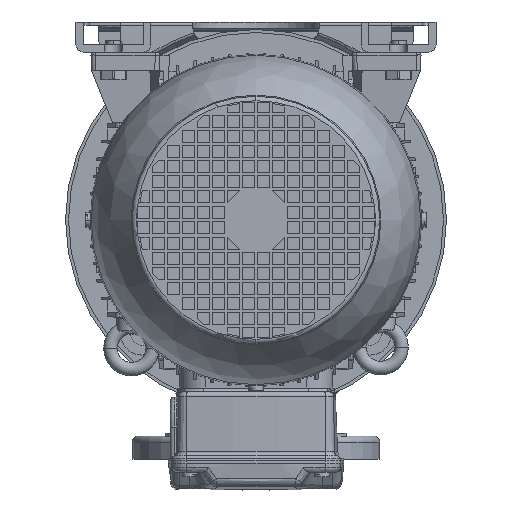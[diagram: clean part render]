
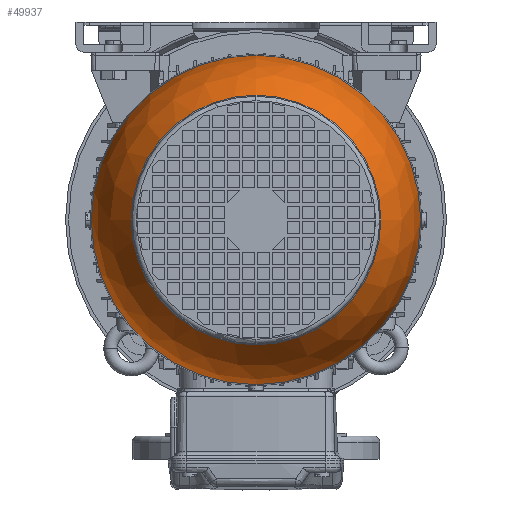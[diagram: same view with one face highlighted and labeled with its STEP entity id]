
A CAD part, front view. The second image highlights one B-rep face of the part: STEP entity #49937.
In plain terms, the highlighted spherical face has radius 109.795 mm.
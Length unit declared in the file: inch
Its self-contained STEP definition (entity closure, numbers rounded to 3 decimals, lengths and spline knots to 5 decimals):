
#7309 = FACE_BOUND ( 'NONE', #15294, .T. ) ;
#14268 = CIRCLE ( 'NONE', #165744, 3.27661 ) ;
#14959 = CARTESIAN_POINT ( 'NONE',  ( -4.70174, 4.32114, 0. ) ) ;
#15294 = EDGE_LOOP ( 'NONE', ( #162557, #49682 ) ) ;
#20419 = CIRCLE ( 'NONE', #151854, 3.27661 ) ;
#22090 = EDGE_CURVE ( 'NONE', #39166, #123479, #124474, .T. ) ;
#23383 = SPHERICAL_SURFACE ( 'NONE', #53732, 4.32262 ) ;
#30882 = DIRECTION ( 'NONE',  ( -1., 0., 0. ) ) ;
#35862 = AXIS2_PLACEMENT_3D ( 'NONE', #56839, #30882, #99760 ) ;
#39166 = VERTEX_POINT ( 'NONE', #14959 ) ;
#41629 = VERTEX_POINT ( 'NONE', #88318 ) ;
#49682 = ORIENTED_EDGE ( 'NONE', *, *, #94204, .F. ) ;
#49937 = ADVANCED_FACE ( 'NONE', ( #7309, #156748 ), #23383, .T. ) ;
#50486 = CARTESIAN_POINT ( 'NONE',  ( -4.70174, -4.32114, 0. ) ) ;
#53732 = AXIS2_PLACEMENT_3D ( 'NONE', #145948, #60107, #103920 ) ;
#56219 = AXIS2_PLACEMENT_3D ( 'NONE', #86235, #137256, #97888 ) ;
#56839 = CARTESIAN_POINT ( 'NONE',  ( -4.70174, 0., 0. ) ) ;
#60107 = DIRECTION ( 'NONE',  ( 1., 0., 0. ) ) ;
#74088 = VERTEX_POINT ( 'NONE', #82377 ) ;
#78595 = DIRECTION ( 'NONE',  ( -1., 0., 0. ) ) ;
#82377 = CARTESIAN_POINT ( 'NONE',  ( -7.40796, 3.27661, 0. ) ) ;
#86235 = CARTESIAN_POINT ( 'NONE',  ( -4.70174, 0., 0. ) ) ;
#87380 = ORIENTED_EDGE ( 'NONE', *, *, #22090, .T. ) ;
#88318 = CARTESIAN_POINT ( 'NONE',  ( -7.40796, -3.27661, 0. ) ) ;
#94204 = EDGE_CURVE ( 'NONE', #74088, #41629, #14268, .T. ) ;
#97888 = DIRECTION ( 'NONE',  ( 0., -1., 0. ) ) ;
#99760 = DIRECTION ( 'NONE',  ( 0., -1., 0. ) ) ;
#103313 = DIRECTION ( 'NONE',  ( -1., 0., 0. ) ) ;
#103920 = DIRECTION ( 'NONE',  ( 0., -1., 0. ) ) ;
#104044 = ORIENTED_EDGE ( 'NONE', *, *, #123695, .T. ) ;
#106653 = EDGE_LOOP ( 'NONE', ( #87380, #104044 ) ) ;
#123479 = VERTEX_POINT ( 'NONE', #50486 ) ;
#123695 = EDGE_CURVE ( 'NONE', #123479, #39166, #176167, .T. ) ;
#124474 = CIRCLE ( 'NONE', #35862, 4.32114 ) ;
#135792 = DIRECTION ( 'NONE',  ( 0., -1., 0. ) ) ;
#137256 = DIRECTION ( 'NONE',  ( -1., 0., 0. ) ) ;
#145948 = CARTESIAN_POINT ( 'NONE',  ( -4.58858, 0., 0. ) ) ;
#151854 = AXIS2_PLACEMENT_3D ( 'NONE', #175208, #78595, #135792 ) ;
#156748 = FACE_OUTER_BOUND ( 'NONE', #106653, .T. ) ;
#157891 = DIRECTION ( 'NONE',  ( 0., -1., 0. ) ) ;
#162557 = ORIENTED_EDGE ( 'NONE', *, *, #172281, .F. ) ;
#165744 = AXIS2_PLACEMENT_3D ( 'NONE', #171294, #103313, #157891 ) ;
#171294 = CARTESIAN_POINT ( 'NONE',  ( -7.40796, 0., 0. ) ) ;
#172281 = EDGE_CURVE ( 'NONE', #41629, #74088, #20419, .T. ) ;
#175208 = CARTESIAN_POINT ( 'NONE',  ( -7.40796, 0., 0. ) ) ;
#176167 = CIRCLE ( 'NONE', #56219, 4.32114 ) ;
